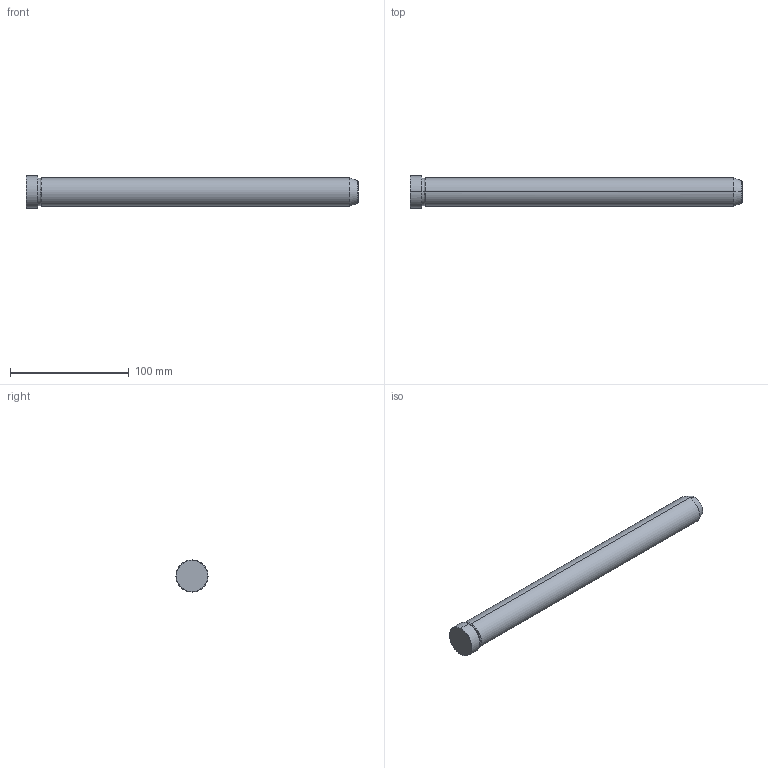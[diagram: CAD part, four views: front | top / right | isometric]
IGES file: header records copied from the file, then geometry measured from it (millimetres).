
Start section: START RECORD GO HERE.
Global section: file name: 549-24X280.igs; native system: DASSAULT SYSTEMES CATIA V5 R20 - www.3ds.com; preprocessor: CATIA Version 5 Release 20 ; author: Utente; organization: NB04-ASUS; date: 20211217.150754; units: millimetre
Bounding box: 280 x 27 x 27 mm (x, y, z)
Surface area: 22136.7 mm2 (no closed solid volume)
Topology: 0 solids, 0 shells, 19 faces, 112 edges, 112 vertices
Faces by surface type: revolution 16, plane 3
